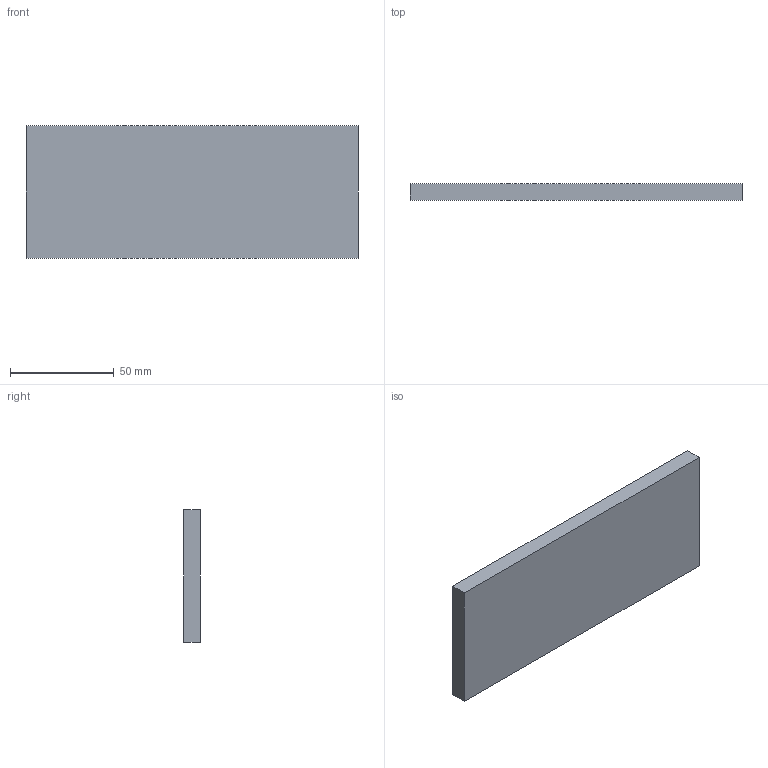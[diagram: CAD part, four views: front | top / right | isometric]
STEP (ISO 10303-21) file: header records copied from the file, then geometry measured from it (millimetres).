
FILE_DESCRIPTION(('Open CASCADE Model'),'2;1');
FILE_NAME('Open CASCADE Shape Model','2026-08-16T15:13:29',('Author'),( 'Open CASCADE'),'Open CASCADE STEP processor 7.9','Open CASCADE 7.9' ,'Unknown');
FILE_SCHEMA(('AUTOMOTIVE_DESIGN { 1 0 10303 214 1 1 1 1 }'));
Length unit declared in the file: millimetre
Products named in the file (1): Open CASCADE STEP translator 7.9 18
Bounding box: 160 x 8 x 64 mm (x, y, z)
Volume: 81920 mm3; surface area: 24064 mm2
Topology: 1 solids, 1 shells, 6 faces, 12 edges, 8 vertices
Faces by surface type: plane 6
Entity records: 322 total; most frequent: CARTESIAN_POINT 51, DIRECTION 50, LINE 36, VECTOR 36, ORIENTED_EDGE 24, PCURVE 24, DEFINITIONAL_REPRESENTATION 24, EDGE_CURVE 12
